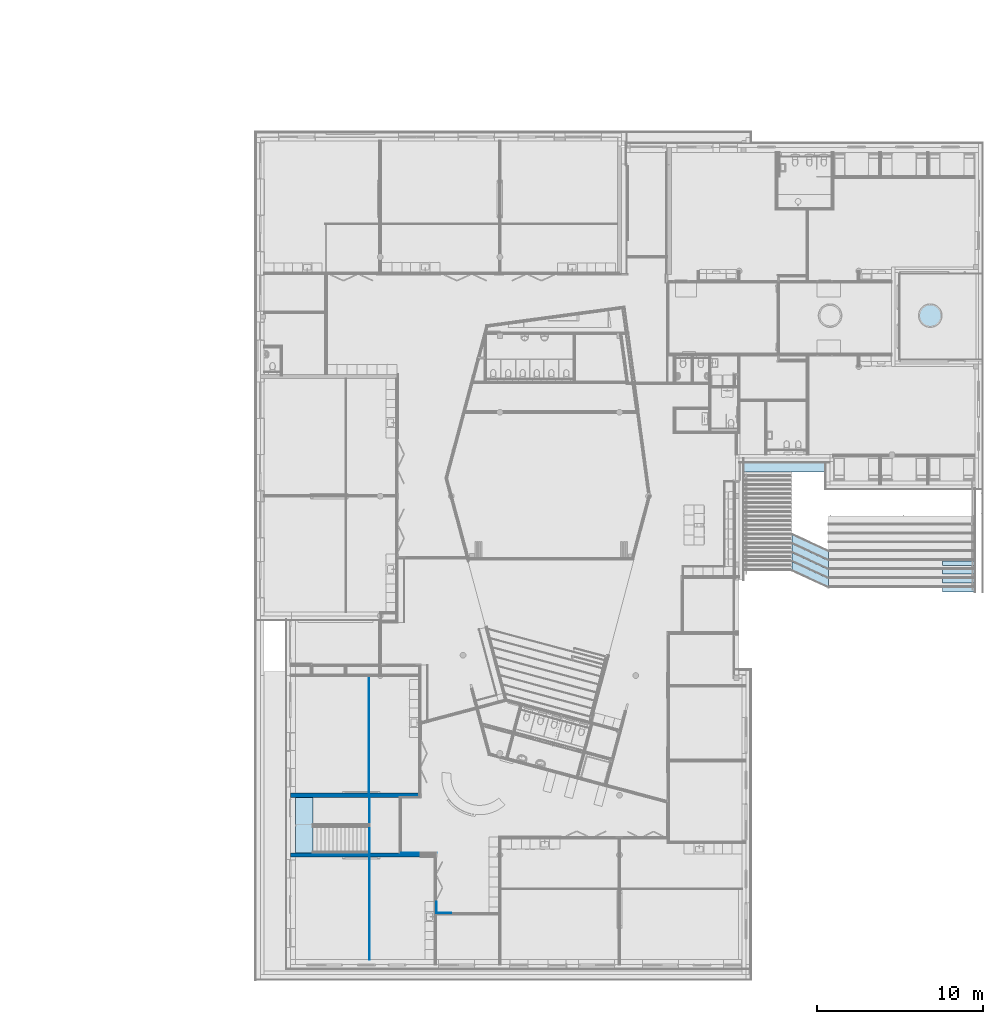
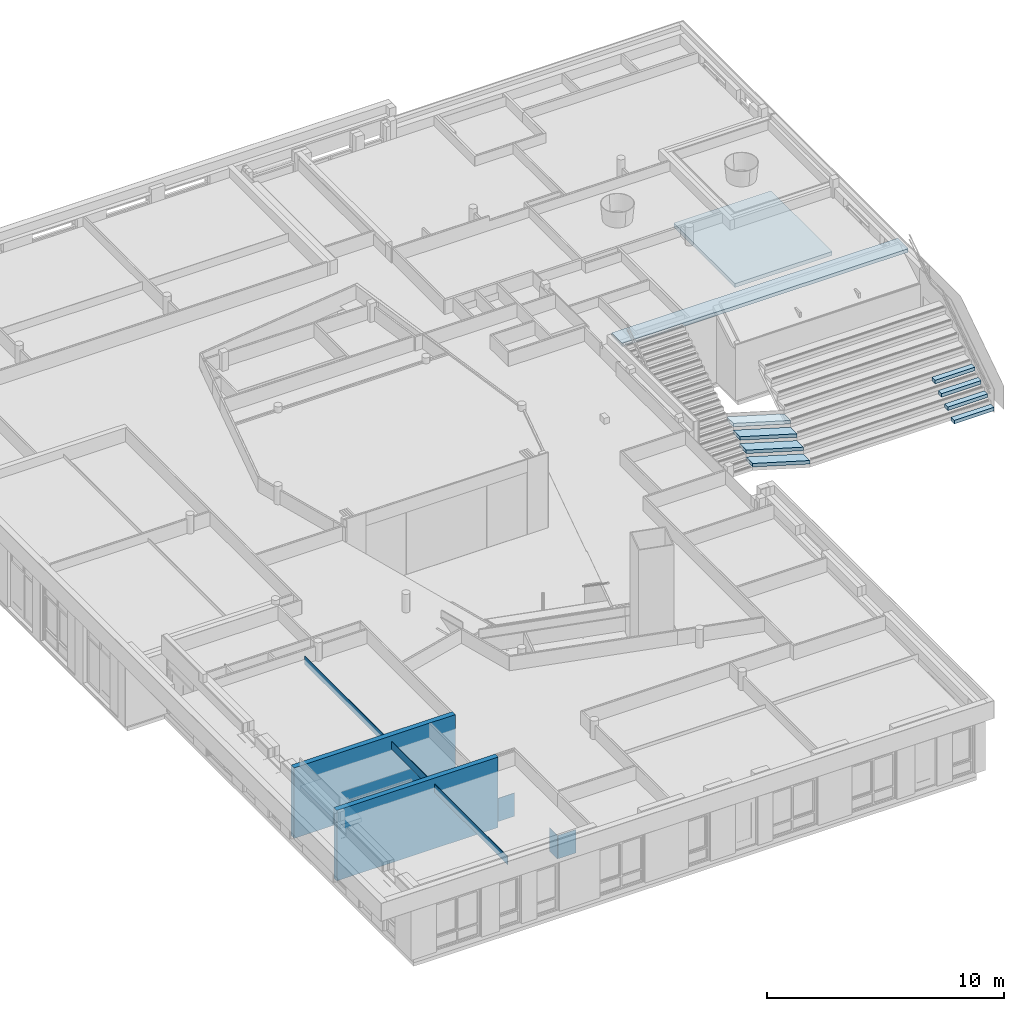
# One storey, part 11 of 167: 11 slabs, 8 walls.
"""IFC2X3 building model written with IfcOpenShell, lengths in millimetres."""

from ifc_helpers import new_model, entity, si_unit, converted_unit, derived_unit, money_unit, direction, frame, origin_with_axes, place, context, subcontext, project, spatial, faceted_brep, material, type_object, element, save


model = new_model("IFC2X3")

# Units and contexts
model_context = context("Model", 3, precision=0.01, world=origin_with_axes(), true_north=direction((0.0, 1.0)))
plan_context = context("Plan", 3, precision=0.01, world=origin_with_axes(), true_north=direction((0.0, 1.0)))
body_context = subcontext(model_context, "Body", "Model", "MODEL_VIEW")
ifc_project = project(units=[si_unit("LENGTHUNIT", "METRE", prefix="MILLI"), si_unit("AREAUNIT", "SQUARE_METRE"), si_unit("VOLUMEUNIT", "CUBIC_METRE"), converted_unit("PLANEANGLEUNIT", "DEGREE", entity("IfcPlaneAngleMeasure", 0.0174532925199), si_unit("PLANEANGLEUNIT", "RADIAN"), dimensions=[0, 0, 0, 0, 0, 0, 0]), si_unit("SOLIDANGLEUNIT", "STERADIAN"), money_unit("EUR"), converted_unit("TIMEUNIT", "Year", entity("IfcTimeMeasure", 31556926.0), si_unit("TIMEUNIT", "SECOND"), dimensions=[0, 0, 1, 0, 0, 0, 0]), si_unit("MASSUNIT", "GRAM", prefix="KILO"), si_unit("THERMODYNAMICTEMPERATUREUNIT", "DEGREE_CELSIUS"), si_unit("LUMINOUSINTENSITYUNIT", "LUMEN"), si_unit("ENERGYUNIT", "JOULE", prefix="MEGA"), derived_unit("THERMALCONDUCTANCEUNIT", [(si_unit("POWERUNIT", "WATT"), 1), (si_unit("LENGTHUNIT", "METRE"), -1), (si_unit("THERMODYNAMICTEMPERATUREUNIT", "KELVIN"), -1)]), derived_unit("SPECIFICHEATCAPACITYUNIT", [(si_unit("ENERGYUNIT", "JOULE"), 1), (si_unit("MASSUNIT", "GRAM", prefix="KILO"), -1), (si_unit("THERMODYNAMICTEMPERATUREUNIT", "KELVIN"), -1)]), derived_unit("MASSDENSITYUNIT", [(si_unit("MASSUNIT", "GRAM", prefix="KILO"), 1), (si_unit("VOLUMEUNIT", "CUBIC_METRE"), -1)])], contexts=[model_context, plan_context])

# Site, building, storey
site_placement = place(None, origin_with_axes())
site = spatial("IfcSite", under=ifc_project, at=site_placement, Name="Site", CompositionType="ELEMENT")
building_placement = place(site_placement, origin_with_axes())
building = spatial("IfcBuilding", under=site, at=building_placement, Name="Naam gebouw", CompositionType="ELEMENT")
storey_placement = place(building_placement, origin_with_axes())
storey = spatial("IfcBuildingStorey", under=building, at=storey_placement, Name="Begane grond", CompositionType="ELEMENT", Elevation=0.0)

# Slabs
ifc_material_1 = material(Name="Beton gewapend prefab")
slab_type_1 = type_object("IfcSlabType", Name="Beton gewapend prefab 200", PredefinedType="NOTDEFINED")
slab_1_placement = place(storey_placement, frame((3150.55542343, 10675.0, 2520.0), z_axis=(0.0, 0.0, 1.0), x_axis=(1.0, 0.0, 0.0)))
element("IfcSlab", 1, at=slab_1_placement, inside=storey, type_object=slab_type_1, material=ifc_material_1, Name="23_Vloer_Vloer-x", PredefinedType="NOTDEFINED", context=body_context, shape_type="Brep", body=[
    faceted_brep([(0.0, 0.0, 0.0), (0.0, 0.0, -200.0), (-1050.55542343, 0.0, -200.0), (-1050.55542343, 0.0, 0.0), (0.0, -3350.0, 0.0), (0.0, -3350.0, -200.0), (-1050.55542343, -3350.0, -200.0), (-1050.55542343, -3350.0, 0.0)], [[[0, 1, 2, 3]], [[4, 5, 1, 0]], [[2, 1, 5, 6]], [[3, 2, 6, 7]], [[0, 3, 7, 4]], [[7, 6, 5, 4]]]),
])
ifc_material_2 = material(Name="Hout - Hardhout")
slab_type_2 = type_object("IfcSlabType", Name="Hout - Hardhout 180", PredefinedType="NOTDEFINED")
slab_2_placement = place(storey_placement, frame((31985.9978649, 24308.0128651, 360.0), z_axis=(0.0, 0.0, 1.0), x_axis=(1.0, 0.0, 0.0)))
element("IfcSlab", 2, at=slab_2_placement, inside=storey, type_object=slab_type_2, material=ifc_material_2, Name="23_Vloer_Vloer-x", PredefinedType="NOTDEFINED", context=body_context, shape_type="Brep", body=[
    faceted_brep([(0.0, 0.0, 0.0), (0.0, 0.0, -180.0), (2200.0, -1016.90905064, -180.0), (2200.0, -1016.90905064, 0.0), (0.0, 560.0, 0.0), (0.0, 560.0, -180.0), (2200.0037336, -456.909050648, -180.0), (2200.0037336, -456.909050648, 0.0)], [[[0, 1, 2, 3]], [[4, 5, 1, 0]], [[2, 1, 5, 6]], [[3, 2, 6, 7]], [[4, 0, 3, 7]], [[7, 6, 5, 4]]]),
])
slab_3_placement = place(storey_placement, frame((31985.9978649, 24848.0128651, 720.0), z_axis=(0.0, 0.0, 1.0), x_axis=(1.0, 0.0, 0.0)))
element("IfcSlab", 3, at=slab_3_placement, inside=storey, type_object=slab_type_2, material=ifc_material_2, Name="23_Vloer_Vloer-x", PredefinedType="NOTDEFINED", context=body_context, shape_type="Brep", body=[
    faceted_brep([(0.0, 0.0, 0.0), (0.0, 0.0, -180.0), (2200.00360025, -1016.90905065, -180.0), (2200.00360025, -1016.90905065, 0.0), (0.0, 560.0, 0.0), (0.0, 560.0, -180.0), (2200.00733385, -456.90905066, -180.0), (2200.00733385, -456.90905066, 0.0)], [[[0, 1, 2, 3]], [[4, 5, 1, 0]], [[2, 1, 5, 6]], [[3, 2, 6, 7]], [[4, 0, 3, 7]], [[7, 6, 5, 4]]]),
])
slab_4_placement = place(storey_placement, frame((31985.9978649, 25388.0128651, 1080.0), z_axis=(0.0, 0.0, 1.0), x_axis=(1.0, 0.0, 0.0)))
element("IfcSlab", 4, at=slab_4_placement, inside=storey, type_object=slab_type_2, material=ifc_material_2, Name="23_Vloer_Vloer-x", PredefinedType="NOTDEFINED", context=body_context, shape_type="Brep", body=[
    faceted_brep([(0.0, 0.0, 0.0), (0.0, 0.0, -180.0), (2200.00720051, -1016.90905066, -180.0), (2200.00720051, -1016.90905066, 0.0), (0.0, 560.0, 0.0), (0.0, 560.0, -180.0), (2200.01093411, -456.909050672, -180.0), (2200.01093411, -456.909050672, 0.0)], [[[0, 1, 2, 3]], [[4, 5, 1, 0]], [[2, 1, 5, 6]], [[3, 2, 6, 7]], [[4, 0, 3, 7]], [[7, 6, 5, 4]]]),
])
slab_5_placement = place(storey_placement, frame((31985.9978649, 25928.0128651, 1440.0), z_axis=(0.0, 0.0, 1.0), x_axis=(1.0, 0.0, 0.0)))
element("IfcSlab", 5, at=slab_5_placement, inside=storey, type_object=slab_type_2, material=ifc_material_2, Name="23_Vloer_Vloer-x", PredefinedType="NOTDEFINED", context=body_context, shape_type="Brep", body=[
    faceted_brep([(0.0, 0.0, 0.0), (0.0, 0.0, -180.0), (2200.01080076, -1016.90905067, -180.0), (2200.01080076, -1016.90905067, 0.0), (0.0, 560.0, 0.0), (0.0, 560.0, -180.0), (2200.01453436, -456.909050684, -180.0), (2200.01453436, -456.909050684, 0.0)], [[[0, 1, 2, 3]], [[4, 5, 1, 0]], [[2, 1, 5, 6]], [[3, 2, 6, 7]], [[4, 0, 3, 7]], [[7, 6, 5, 4]]]),
])
ifc_material_3 = material(Name="ALG - CONSTRUCTIEF")
slab_type_3 = type_object("IfcSlabType", Name="ALG - CONSTRUCTIEF 180", PredefinedType="NOTDEFINED")
for number, where, z_axis, x_axis, name in (
    (6, (41056.359783, 24640.9987916, 1260.0), (0.0, 0.0, 1.0), (1.0, 0.0, 0.0), "23_Vloer_Vloer-x"),
    (7, (41056.3561828, 24100.9987916, 900.0), (0.0, 0.0, 1.0), (1.0, 0.0, 0.0), "23_Vloer_Vloer-x"),
    (8, (41056.3525825, 23560.9987916, 540.0), (0.0, 0.0, 1.0), (1.0, 0.0, 0.0), "23_Vloer_Vloer-x"),
    (9, (41056.3489823, 23020.9987916, 180.0), (0.0, 0.0, 1.0), (1.0, 0.0, 0.0), "23_Vloer_Vloer-x"),
):
    element("IfcSlab", number, at=place(storey_placement, frame(where, z_axis=z_axis, x_axis=x_axis)), inside=storey, type_object=slab_type_3, material=ifc_material_3, Name=name, PredefinedType="NOTDEFINED", context=body_context, shape_type="Brep", body=[
        faceted_brep([(0.0, 0.0, 0.0), (0.0, 0.0, -180.0), (1929.62688113, 0.0, -180.0), (1929.62688113, 0.0, 0.0), (0.0, 270.046352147, 0.0), (0.0, 270.046352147, -180.0), (1929.62688113, 270.046352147, -180.0), (1929.62688113, 270.046352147, 0.0)], [[[0, 1, 2, 3]], [[4, 5, 1, 0]], [[2, 1, 5, 6]], [[3, 2, 6, 7]], [[4, 0, 3, 7]], [[7, 6, 5, 4]]]),
    ])
slab_6_placement = place(storey_placement, frame((29059.9559721, 30248.0128651, 3960.0), z_axis=(0.0, 0.0, 1.0), x_axis=(1.0, 0.0, 0.0)))
element("IfcSlab", 10, at=slab_6_placement, inside=storey, type_object=slab_type_3, material=ifc_material_3, Name="23_Vloer_Vloer-x", PredefinedType="NOTDEFINED", context=body_context, shape_type="Brep", body=[
    faceted_brep([(0.0, 0.0, 0.0), (13926.0440279, 0.0, 0.0), (13926.0440279, 889.086597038, 0.0), (0.0, 889.086597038, 0.0), (0.0, 0.0, -180.0), (13926.0440279, 0.0, -180.0), (13926.0440279, 889.086597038, -180.0), (0.0, 889.086597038, -180.0)], [[[0, 1, 2, 3]], [[4, 5, 1, 0]], [[5, 6, 2, 1]], [[3, 2, 6, 7]], [[0, 3, 7, 4]], [[7, 6, 5, 4]]]),
])
ifc_material_4 = material(Name="Beton gewapend i.h.w. beton")
slab_type_4 = type_object("IfcSlabType", Name="Beton gewapend i.h.w. beton 200", PredefinedType="NOTDEFINED")
slab_7_placement = place(storey_placement, frame((38463.0, 37023.9999919, -370.0), z_axis=(0.0, 0.0, 1.0), x_axis=(1.0, 0.0, 0.0)))
element("IfcSlab", 11, at=slab_7_placement, inside=storey, type_object=slab_type_4, material=ifc_material_4, Name="23_Vloer_Vloer-x", PredefinedType="NOTDEFINED", context=body_context, shape_type="Brep", body=[
    faceted_brep([(0.0, 0.0, 0.0), (0.0, 0.0, -200.0), (4737.0, 0.0, -200.0), (4737.0, 0.0, 0.0), (0.0, 5152.00000805, 0.0), (0.0, 5152.00000805, -200.0), (4737.0, 5152.00000805, -200.0), (4737.0, 5152.00000805, 0.0)], [[[0, 1, 2, 3]], [[4, 5, 1, 0]], [[2, 1, 5, 6]], [[3, 2, 6, 7]], [[4, 0, 3, 7]], [[7, 6, 5, 4]]]),
])

# Walls
ifc_material_5 = material(Name="Beton gewapend C")
wall_type_1 = type_object("IfcWallType", Name="Betonwand 250 250", PredefinedType="NOTDEFINED")
for number, where, z_axis, x_axis, name in (
    (12, (1800.0, 7200.0, -100.0), (0.0, 0.0, 1.0), (1.0, 0.0, 0.0), "22_Wand_Wand-x"),
    (13, (1800.0, 10800.0, -100.0), (0.0, 0.0, 1.0), (1.0, 0.0, 0.0), "22_Wand_Wand-x"),
):
    element("IfcWall", number, at=place(storey_placement, frame(where, z_axis=z_axis, x_axis=x_axis)), inside=storey, type_object=wall_type_1, material=ifc_material_5, Name=name, context=body_context, shape_type="Brep", body=[
        faceted_brep([(0.0, 125.0, 0.0), (7850.0, 125.0, 0.0), (7850.0, -125.0, 0.0), (0.0, -125.0, 0.0), (0.0, 125.0, 3629.99999752), (7850.0, 125.0, 3629.99999752), (7850.0, -125.0, 3629.99999752), (0.0, -125.0, 3629.99999752)], [[[0, 1, 2, 3]], [[4, 5, 1, 0]], [[2, 1, 5, 6]], [[3, 2, 6, 7]], [[4, 0, 3, 7]], [[7, 6, 5, 4]]]),
    ])
ifc_material_6 = material(Name="Hout - Spaanplaat")
wall_type_2 = type_object("IfcWallType", Name="Hout - Spaanplaat 25", PredefinedType="NOTDEFINED")
wall_1_placement = place(storey_placement, frame((6549.999981, 7075.0, 2810.0), z_axis=(0.0, 0.0, 1.0), x_axis=(0.0, -1.0, 0.0)))
element("IfcWall", 14, at=wall_1_placement, inside=storey, type_object=wall_type_2, material=ifc_material_6, Name="21_Wand_Wand-x", context=body_context, shape_type="Brep", body=[
    faceted_brep([(0.0, 0.0, 420.0), (6175.0, 0.0, 420.0), (6175.0, 25.0, 420.0), (0.0, 25.0, 420.0), (6175.0, 0.0, 0.0), (0.0, 0.0, 0.0), (6175.0, 25.0, 0.0), (0.0, 25.0, 0.0)], [[[0, 1, 2, 3]], [[4, 1, 0, 5]], [[6, 2, 1, 4]], [[3, 2, 6, 7]], [[5, 0, 3, 7]], [[7, 6, 4, 5]]]),
])
wall_2_placement = place(storey_placement, frame((6510.000019, 10925.0, 2810.0), z_axis=(0.0, 0.0, 1.0), x_axis=(0.0, 1.0, 0.0)))
element("IfcWall", 15, at=wall_2_placement, inside=storey, type_object=wall_type_2, material=ifc_material_6, Name="21_Wand_Wand-x", context=body_context, shape_type="Brep", body=[
    faceted_brep([(7037.50009033, -25.0, 420.0), (7037.50009033, 0.0, 420.0), (0.0, 0.0, 420.0), (0.0, -25.0, 420.0), (7037.50009033, -25.0, 0.0), (7037.50009033, 0.0, 0.0), (0.0, 0.0, 0.0), (0.0, -25.0, 0.0)], [[[0, 1, 2, 3]], [[1, 0, 4, 5]], [[1, 5, 6, 2]], [[7, 3, 2, 6]], [[4, 0, 3, 7]], [[5, 4, 7, 6]]]),
])
wall_3_placement = place(storey_placement, frame((6549.999981, 10675.0, 2810.0), z_axis=(0.0, 0.0, 1.0), x_axis=(0.0, -1.0, 0.0)))
element("IfcWall", 16, at=wall_3_placement, inside=storey, type_object=wall_type_2, material=ifc_material_6, Name="21_Wand_Wand-x", context=body_context, shape_type="Brep", body=[
    faceted_brep([(0.0, 25.0, 0.0), (3350.0, 25.0, 0.0), (3350.0, 0.0, 0.0), (0.0, 0.0, 0.0), (0.0, 25.0, 420.0), (3350.0, 25.0, 420.0), (3350.0, 0.0, 420.0), (0.0, 0.0, 420.0)], [[[0, 1, 2, 3]], [[4, 5, 1, 0]], [[2, 1, 5, 6]], [[3, 2, 6, 7]], [[4, 0, 3, 7]], [[7, 6, 5, 4]]]),
])
wall_type_3 = type_object("IfcWallType", Name="Hout - Spaanplaat 20", PredefinedType="NOTDEFINED")
wall_4_placement = place(storey_placement, frame((8419.25215922, 7325.0, 0.0), z_axis=(0.0, 0.0, 1.0), x_axis=(1.0, 0.0, 0.0)))
element("IfcWall", 17, at=wall_4_placement, inside=storey, type_object=wall_type_3, material=ifc_material_6, Name="21_Wand_Wand-x", context=body_context, shape_type="Brep", body=[
    faceted_brep([(50.0, 20.0, 0.0), (50.0, 20.0, 1200.0), (2182.57507522, 20.0, 1200.0), (2182.57507522, 20.0, 0.0), (37.5, 17.5, 1200.0), (37.5, 17.5, 0.0), (37.5, 0.0, 1200.0), (2182.57507522, 0.0, 1200.0), (2182.57507522, 0.0, 0.0), (37.5, 0.0, 0.0)], [[[0, 1, 2, 3]], [[4, 1, 0, 5]], [[1, 4, 6, 7, 2]], [[7, 8, 3, 2]], [[5, 0, 3, 8, 9]], [[4, 5, 9, 6]], [[9, 8, 7, 6]]]),
])
wall_5_placement = place(storey_placement, frame((10581.8272344, 4375.0, 0.0), z_axis=(0.0, 0.0, 1.0), x_axis=(0.0, -1.0, 0.0)))
element("IfcWall", 18, at=wall_5_placement, inside=storey, type_object=wall_type_3, material=ifc_material_6, Name="21_Wand_Wand-x", context=body_context, shape_type="Brep", body=[
    faceted_brep([(687.5, 20.0, 0.0), (687.5, 0.0, 0.0), (0.0, 0.0, 0.0), (0.0, 20.0, 0.0), (687.5, 20.0, 1200.0), (687.5, 0.0, 1200.0), (0.0, 0.0, 1200.0), (0.0, 20.0, 1200.0)], [[[0, 1, 2, 3]], [[1, 0, 4, 5]], [[1, 5, 6, 2]], [[7, 3, 2, 6]], [[4, 0, 3, 7]], [[5, 4, 7, 6]]]),
])
wall_6_placement = place(storey_placement, frame((10581.8272344, 3700.0, 0.0), z_axis=(0.0, 0.0, 1.0), x_axis=(1.0, 0.0, 0.0)))
element("IfcWall", 19, at=wall_6_placement, inside=storey, type_object=wall_type_3, material=ifc_material_6, Name="21_Wand_Wand-x", context=body_context, shape_type="Brep", body=[
    faceted_brep([(20.0, 20.0, 0.0), (900.0, 20.0, 0.0), (900.0, 0.0, 0.0), (20.0, 0.0, 0.0), (20.0, 20.0, 1200.0), (900.0, 20.0, 1200.0), (900.0, 0.0, 1200.0), (20.0, 0.0, 1200.0)], [[[0, 1, 2, 3]], [[4, 5, 1, 0]], [[2, 1, 5, 6]], [[3, 2, 6, 7]], [[4, 0, 3, 7]], [[7, 6, 5, 4]]]),
])

save(model, "model.ifc")
